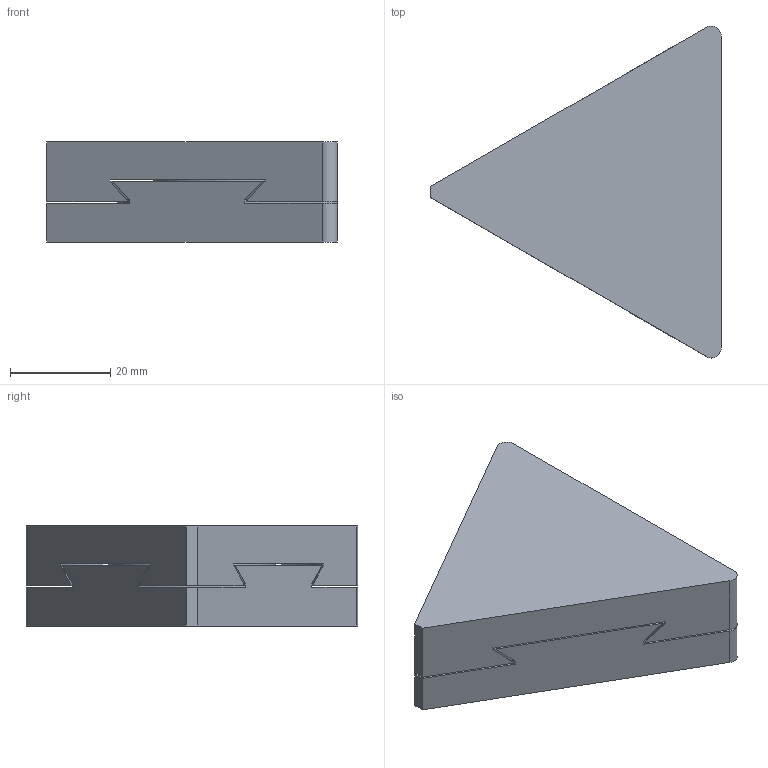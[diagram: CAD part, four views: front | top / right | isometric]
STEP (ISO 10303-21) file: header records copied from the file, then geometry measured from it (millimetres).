
FILE_DESCRIPTION(/* description */ ('Alibre Inc.'),/* implementation_level */ '2;1');
FILE_NAME(/* name */ 'export0',/* time_stamp */ '2011-09-30T21:05:40-07:00',/* author */ (''),/* organization */ (''),/* preprocessor_version */ 'ST-DEVELOPER v10',/* originating_system */ 'Alibre',/* authorisation */ '');
FILE_SCHEMA (('ALIBRE_SCHEMA','CONFIG_CONTROL_DESIGN'));
Length unit declared in the file: centimetre
Products named in the file (1): ID_1
Bounding box: 58.09 x 66.35 x 20 mm (x, y, z)
Volume: 35511.3 mm3; surface area: 16465.8 mm2
Topology: 2 solids, 2 shells, 110 faces, 305 edges, 204 vertices
Faces by surface type: plane 59, cylinder 32, cone 11, torus 4, bspline 4
Full cylindrical faces by diameter (mm): 34.024 x1
Entity records: 6256 total; most frequent: CARTESIAN_POINT 1950, ORIENTED_EDGE 594, DIRECTION 532, PERSISTANTTOPOLOGYATTRIBUTE 355, EDGE_CURVE 297, VECTOR 273, LINE 224, VERTEX_POINT 200
